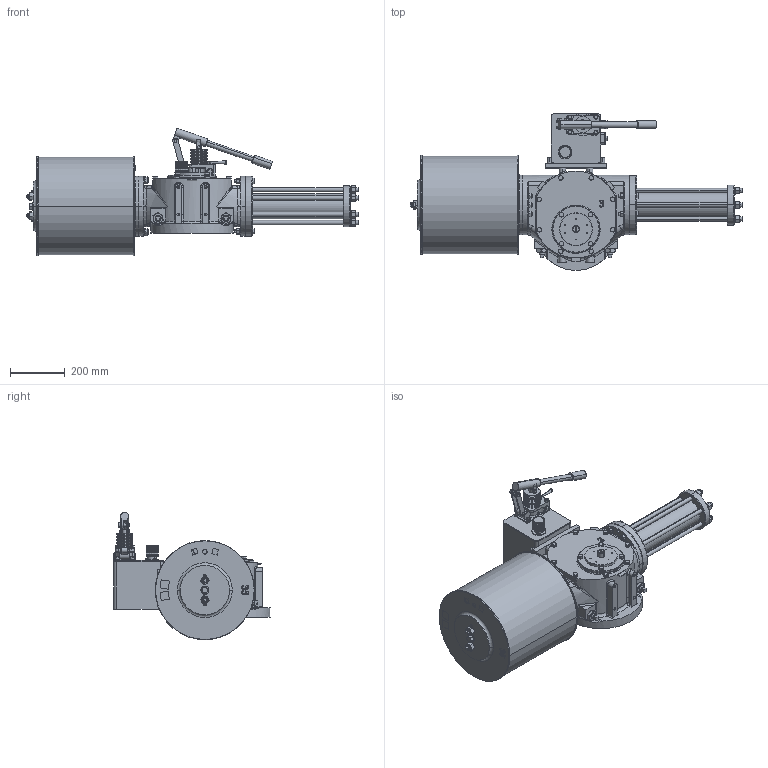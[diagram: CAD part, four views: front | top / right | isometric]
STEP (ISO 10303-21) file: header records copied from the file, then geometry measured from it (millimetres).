
FILE_DESCRIPTION (( 'STEP AP203' ), '1' );
FILE_NAME ('VTS3-350-MH.STEP', '2023-01-01T09:12:30', ( '' ), ( '' ), 'SwSTEP 2.0', 'SolidWorks 2020', '' );
FILE_SCHEMA (( 'CONFIG_CONTROL_DESIGN' ));
Length unit declared in the file: millimetre
Products named in the file (1): VTS3-350-MH
Bounding box: 1212 x 571.9 x 465.27 mm (x, y, z)
Volume: 61547457.4 mm3; surface area: 2277645.9 mm2
Topology: 59 solids, 60 shells, 2586 faces, 6392 edges, 4043 vertices
Faces by surface type: plane 1037, cylinder 852, cone 536, bspline 151, torus 10
Entity records: 93758 total; most frequent: CARTESIAN_POINT 33214, ORIENTED_EDGE 12670, DIRECTION 12540, EDGE_CURVE 6335, AXIS2_PLACEMENT_3D 4911, VERTEX_POINT 4043, EDGE_LOOP 2934, VECTOR 2718
